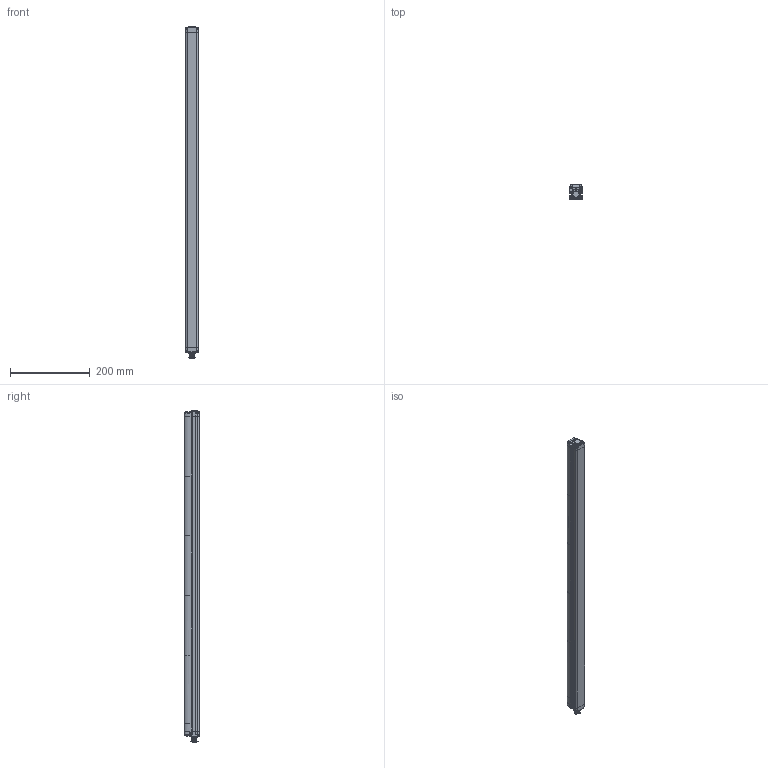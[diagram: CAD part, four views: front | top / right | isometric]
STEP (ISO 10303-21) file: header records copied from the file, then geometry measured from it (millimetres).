
FILE_DESCRIPTION(/* description */ (''),/* implementation_level */ '2;1');
FILE_NAME(/* name */ 'DSD-0173.stp',/* time_stamp */ '2020-07-16T13:18:48+02:00',/* author */ (''),/* organization */ (''),/* preprocessor_version */ 'ST-DEVELOPER v16.7',/* originating_system */ 'SIEMENS PLM Software NX 12.0',/* authorisation */ '');
FILE_SCHEMA (('AUTOMOTIVE_DESIGN { 1 0 10303 214 3 1 1 1 }'));
Products named in the file (1): AP025826_00_1-DSD-0173
Bounding box: 32.3 x 36.9 x 832.94 mm (x, y, z)
Volume: 816752.8 mm3; surface area: 196399.6 mm2
Topology: 11 solids, 813 shells, 1664 faces, 5269 edges, 4161 vertices
Faces by surface type: cylinder 614, bspline 569, plane 384, sphere 54, cone 35, torus 8
Full cylindrical faces by diameter (mm): 0.8 x16, 1.5 x6, 2 x6, 2.05 x4, 2.5 x12, 2.7 x10, 2.9 x6, 3 x12, 3.4 x6, 3.6 x12, 4.7 x2, 5 x10, 5.3 x2, 7.5 x1, 8 x1, 8.3 x1, 9.3 x1, 9.5 x1, 9.55 x1, 10.5 x1, 11 x2, 12 x12, 13.97 x1, 14.3 x1, 16 x2
Entity records: 87018 total; most frequent: CARTESIAN_POINT 37247, ORIENTED_EDGE 6911, DIRECTION 6136, EDGE_CURVE 4989, VERTEX_POINT 4155, AXIS2_PLACEMENT_3D 2412, EDGE_LOOP 1974, PRESENTATION_STYLE_ASSIGNMENT 1669
